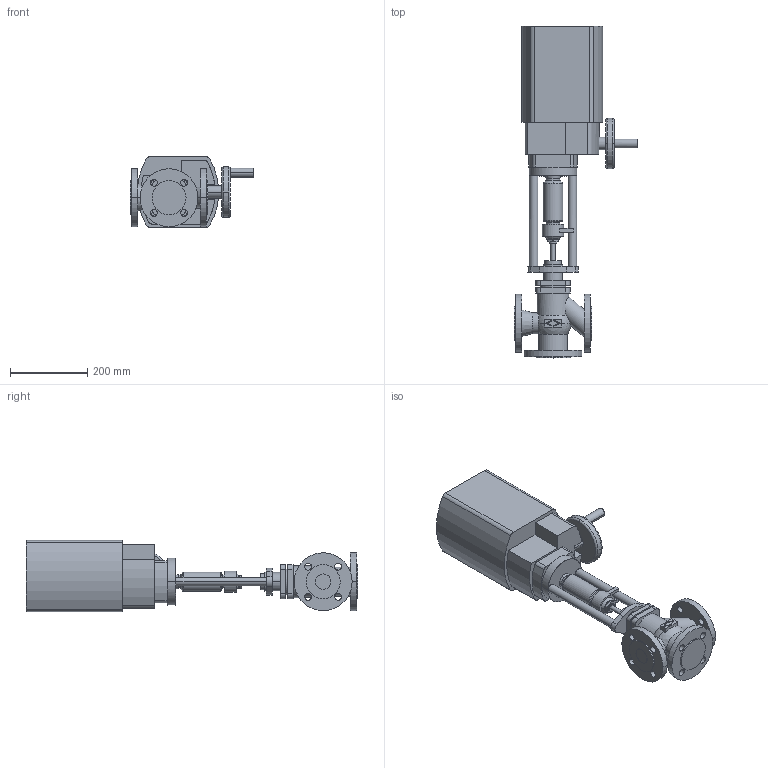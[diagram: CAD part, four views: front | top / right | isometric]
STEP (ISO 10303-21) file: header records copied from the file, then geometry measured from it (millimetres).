
FILE_DESCRIPTION( ( '' ), '1' );
FILE_NAME( 'F:/DE-SHS/TB/OR/04-Sonstiges/daten/files_3d/450-PREMIO-Plus-2G/c000006519.stp', '2017-02-22T12:50:40', ( '' ), ( '' ), ' ', ' ', ' ' );
FILE_SCHEMA( ( 'CONFIG_CONTROL_DESIGN' ) );
Length unit declared in the file: millimetre
Products named in the file (2): 1; 2
Bounding box: 319.05 x 859 x 184 mm (x, y, z)
Volume: 14778696.6 mm3; surface area: 658075.4 mm2
Topology: 2 solids, 2 shells, 240 faces, 604 edges, 397 vertices
Faces by surface type: cylinder 112, plane 103, torus 12, cone 10, sphere 3
Entity records: 8274 total; most frequent: CARTESIAN_POINT 2085, DIRECTION 1386, ORIENTED_EDGE 1208, EDGE_CURVE 604, AXIS2_PLACEMENT_3D 554, VERTEX_POINT 397, CIRCLE 310, EDGE_LOOP 293
